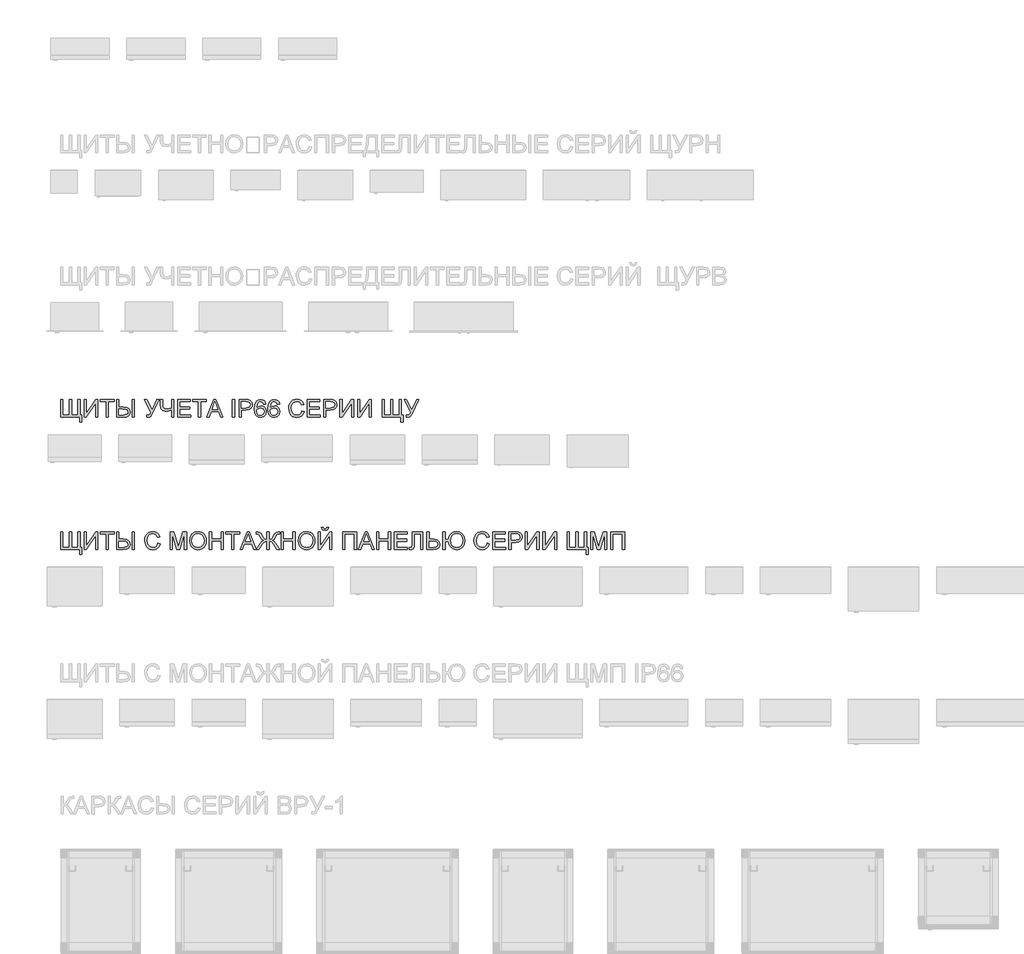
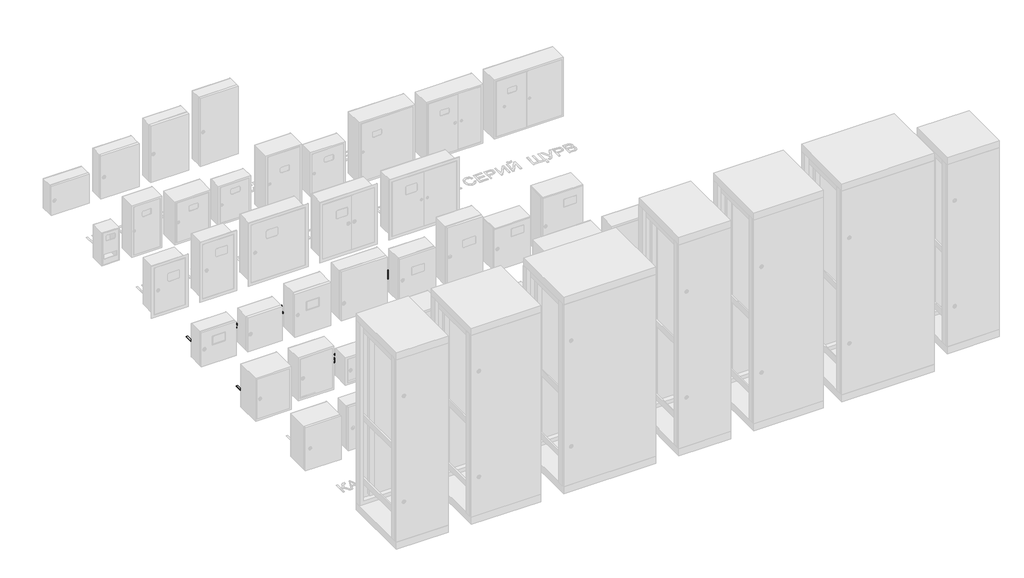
# One storey, part 9 of 25: 2 proxies.
"""IFC4 building model written with IfcOpenShell, lengths in millimetres."""

import ifcopenshell
import ifcopenshell.guid

model = None  # the IFC model being written
_history = None  # IfcOwnerHistory: only IFC2X3 demands one
_inside = {}  # id of a spatial element -> (the spatial element, [elements in it])
_under = {}  # id of a project, library or spatial element -> (it, [spatial elements below it])
_declared = {}  # id of a project -> (the project, [libraries it declares])
_typed = {}  # id of a type object -> (the type object, [elements of that type])
_made_of = {}  # id of a material, layer set ... -> (it, [elements and type objects made of it])


def new_model(schema):
    """Start an empty IFC model of exactly this schema.

    Asked for "IFC4X3", IfcOpenShell would pick the latest addendum, in which some entities
    have other attributes; the version numbers below select the first issue.
    IFC2X3 requires an IfcOwnerHistory on every rooted entity: one is made here for all.
    """
    global model, _history
    if schema == "IFC4X3":
        model = ifcopenshell.file(schema_version=(4, 3, 0, 0))
    else:
        model = ifcopenshell.file(schema=schema)
    _inside.clear()
    _under.clear()
    _declared.clear()
    _typed.clear()
    _made_of.clear()
    _history = None
    if model.schema == "IFC2X3":
        org = make("IfcOrganization", Name="unknown")
        user = make(
            "IfcPersonAndOrganization",
            ThePerson=make("IfcPerson", FamilyName="unknown"),
            TheOrganization=org,
        )
        app = make(
            "IfcApplication",
            ApplicationDeveloper=org,
            Version="unknown",
            ApplicationFullName="unknown",
            ApplicationIdentifier="unknown",
        )
        _history = make(
            "IfcOwnerHistory",
            OwningUser=user,
            OwningApplication=app,
            ChangeAction="ADDED",
            CreationDate=0,
        )
    return model


def make(cls, **values):
    """One entity of the class cls with the attributes given. An attribute that is None is left unset."""
    return model.create_entity(
        cls, **{name: value for name, value in values.items() if value is not None}
    )


def rooted(cls, **values):
    """An entity with a GlobalId (a new one), such as an element, a storey or a relation."""
    return make(cls, GlobalId=ifcopenshell.guid.new(), OwnerHistory=_history, **values)


def si_unit(unit_type, name, prefix=None):
    """IfcSIUnit, for example si_unit("LENGTHUNIT", "METRE", prefix="MILLI")."""
    return make("IfcSIUnit", UnitType=unit_type, Prefix=prefix, Name=name)


def assignment(units):
    """IfcUnitAssignment: the units of a project."""
    return None if units is None else make("IfcUnitAssignment", Units=units)


def point(xyz):
    """IfcCartesianPoint."""
    return None if xyz is None else make("IfcCartesianPoint", Coordinates=xyz)


def direction(xyz):
    """IfcDirection."""
    return None if xyz is None else make("IfcDirection", DirectionRatios=xyz)


def frame(location, z_axis=None, x_axis=None):
    """IfcAxis2Placement3D, a coordinate frame: its origin and axes. An axis left out is left unset."""
    return make(
        "IfcAxis2Placement3D",
        Location=point(location),
        Axis=direction(z_axis),
        RefDirection=direction(x_axis),
    )


def origin():
    """The frame at (0, 0, 0) with its axes left unset."""
    return frame((0.0, 0.0, 0.0))


def place(relative_to, where):
    """IfcLocalPlacement: puts the frame where relative to a parent placement (None: the world)."""
    return make(
        "IfcLocalPlacement", PlacementRelTo=relative_to, RelativePlacement=where
    )


def context(
    kind, dimensions, precision=None, world=None, true_north=None, identifier=None
):
    """IfcGeometricRepresentationContext, for example the 3D "Model" context."""
    return make(
        "IfcGeometricRepresentationContext",
        ContextIdentifier=identifier,
        ContextType=kind,
        CoordinateSpaceDimension=dimensions,
        Precision=precision,
        WorldCoordinateSystem=world,
        TrueNorth=true_north,
    )


def project(units=None, contexts=None):
    """IfcProject with its units and contexts."""
    return rooted(
        "IfcProject",
        Name="project",
        RepresentationContexts=contexts,
        UnitsInContext=assignment(units),
    )


def spatial(cls, under=None, at=None, **own):
    """A site, building, storey or space (cls), placed at a placement, below another one or the project."""
    s = rooted(cls, ObjectPlacement=at, **own)
    if under is not None:
        _under.setdefault(under.id(), (under, []))[1].append(s)
    return s


def polyline(points):
    """IfcPolyline through the points."""
    return make("IfcPolyline", Points=[point(p) for p in points])


def outline(outer, holes=None, kind="AREA"):
    """IfcArbitraryClosedProfileDef: a profile drawn as a closed curve; with holes, ...WithVoids."""
    if holes is None:
        return make("IfcArbitraryClosedProfileDef", ProfileType=kind, OuterCurve=outer)
    return make(
        "IfcArbitraryProfileDefWithVoids",
        ProfileType=kind,
        OuterCurve=outer,
        InnerCurves=holes,
    )


def extrude(swept, where, along, depth):
    """IfcExtrudedAreaSolid: the profile swept, set in the frame where, extruded along a direction by depth."""
    return make(
        "IfcExtrudedAreaSolid",
        SweptArea=swept,
        Position=where,
        ExtrudedDirection=direction(along),
        Depth=depth,
    )


def shape(context_of_items, identifier, shape_type, items):
    """IfcShapeRepresentation: the items that make up one representation, for example the "Body"."""
    return make(
        "IfcShapeRepresentation",
        ContextOfItems=context_of_items,
        RepresentationIdentifier=identifier,
        RepresentationType=shape_type,
        Items=items,
    )


def made_of(thing, what):
    """Note that an element or type object is made of a material, layer set ...; save() writes the relation."""
    if what is not None:
        _made_of.setdefault(what.id(), (what, []))[1].append(thing)
    return thing


def element(
    cls,
    number,
    at=None,
    inside=None,
    cuts=None,
    type_object=None,
    material=None,
    context=None,
    identifier="Body",
    shape_type=None,
    held_by="IfcProductDefinitionShape",
    body=None,
    shapes=None,
    **own,
):
    """One element of the class cls, such as IfcWall. Its Tag is "e" and its number.

    at: its placement. inside: the storey or other place that contains it. cuts: it is an
    opening in that element (IfcRelVoidsElement). A single representation is given by context,
    identifier, shape_type and body (its items); several are given by shapes. held_by: the class
    of the entity that holds the representations. save() writes the other relations.
    """
    e = rooted(cls, Tag="e%d" % number, ObjectPlacement=at, **own)
    if body is not None:
        shapes = [shape(context, identifier, shape_type, body)]
    if shapes is not None:
        e.Representation = make(held_by, Representations=shapes)
    if inside is not None:
        _inside.setdefault(inside.id(), (inside, []))[1].append(e)
    if cuts is not None:
        rooted(
            "IfcRelVoidsElement", RelatingBuildingElement=cuts, RelatedOpeningElement=e
        )
    if type_object is not None:
        _typed.setdefault(type_object.id(), (type_object, []))[1].append(e)
    return made_of(e, material)


def aggregate(whole, parts):
    """IfcRelAggregates: a whole, such as a stair, and the parts it consists of."""
    return rooted("IfcRelAggregates", RelatingObject=whole, RelatedObjects=parts)


def save(model, path):
    """Write the relations noted so far, then the file.

    IfcRelAggregates (storeys below a building ...), IfcRelContainedInSpatialStructure (elements
    in a storey), IfcRelDefinesByType, IfcRelAssociatesMaterial and IfcRelDeclares: one each for
    every whole, place, type object, material and project.
    """
    for whole, parts in _under.values():
        aggregate(whole, parts)
    for where, things in _inside.values():
        rooted(
            "IfcRelContainedInSpatialStructure",
            RelatedElements=things,
            RelatingStructure=where,
        )
    for kind, things in _typed.values():
        rooted("IfcRelDefinesByType", RelatedObjects=things, RelatingType=kind)
    for what, things in _made_of.values():
        rooted("IfcRelAssociatesMaterial", RelatedObjects=things, RelatingMaterial=what)
    for by, libraries in _declared.values():
        rooted("IfcRelDeclares", RelatingContext=by, RelatedDefinitions=libraries)
    model.write(path)


model = new_model("IFC4")

# Units and contexts
model_context = context("Model", 3, world=origin())
ifc_project = project(units=[si_unit("LENGTHUNIT", "METRE", prefix="MILLI")], contexts=[model_context])

# Site, building, storey
site = spatial("IfcSite", under=ifc_project)
building = spatial("IfcBuilding", under=site)
storey = spatial("IfcBuildingStorey", under=building, Name="Этаж 01", Elevation=0.0)

# Proxies
placement = place(None, origin())
element("IfcBuildingElementProxy", 1, Name="Надпись на модели 1", ObjectType="Надпись на модели 1", at=placement, inside=storey, context=model_context, shape_type="SweptSolid", body=[
    extrude(outline(polyline([(-19039.6906686, 6136.6915941), (-19027.1336298, 6136.6915941), (-19027.1336298, 6048.7923228), (-18991.0321433, 6048.7923228), (-18991.0321433, 6136.6915941), (-18978.4751046, 6136.6915941), (-18978.4751046, 6048.7923228), (-18942.3736181, 6048.7923228), (-18942.3736181, 6136.6915941), (-18929.8165793, 6136.6915941), (-18929.8165793, 6048.7923228), (-18920.3988003, 6048.7923228), (-18920.3988003, 6007.9819468), (-18932.955839, 6007.9819468), (-18932.955839, 6036.235284), (-19039.6906686, 6036.235284), (-19039.6906686, 6136.6915941)])), frame((0.0, 0.0, 40.0), z_axis=(0.0, 0.0, 1.0), x_axis=(1.0, 0.0, 0.0)), (0.0, 0.0, 1.0), 2.0),
    extrude(outline(polyline([(-18907.8417615, 6136.6915941), (-18895.2847227, 6136.6915941), (-18895.2847227, 6057.1309813), (-18842.7021229, 6136.6915941), (-18829.3602692, 6136.6915941), (-18829.3602692, 6036.235284), (-18841.917308, 6036.235284), (-18841.917308, 6115.5751676), (-18894.3772805, 6036.235284), (-18907.8417615, 6036.235284), (-18907.8417615, 6136.6915941)])), frame((0.0, 0.0, 40.0), z_axis=(0.0, 0.0, 1.0), x_axis=(1.0, 0.0, 0.0)), (0.0, 0.0, 1.0), 2.0),
    extrude(outline(polyline([(-18782.2713738, 6036.235284), (-18782.2713738, 6124.1345554), (-18815.2336006, 6124.1345554), (-18815.2336006, 6136.6915941), (-18736.7521083, 6136.6915941), (-18736.7521083, 6124.1345554), (-18769.714335, 6124.1345554), (-18769.714335, 6036.235284), (-18782.2713738, 6036.235284)])), frame((0.0, 0.0, 40.0), z_axis=(0.0, 0.0, 1.0), x_axis=(1.0, 0.0, 0.0)), (0.0, 0.0, 1.0), 2.0),
    extrude(outline(polyline([(-18722.6254397, 6136.6915941), (-18710.0684009, 6136.6915941), (-18710.0684009, 6094.3115883), (-18685.935342, 6094.3115883), (-18666.2965748, 6092.1165591), (-18654.7634743, 6085.5314713), (-18649.1532739, 6076.1627432), (-18647.2832071, 6065.6167927), (-18649.2605728, 6054.6017926), (-18655.1926699, 6045.0521891), (-18666.4958443, 6038.4395103), (-18684.5864414, 6036.235284), (-18722.6254397, 6036.235284), (-18722.6254397, 6136.6915941)]), holes=[polyline([(-18710.0684009, 6048.7923228), (-18684.7090687, 6048.7923228), (-18665.7386205, 6052.777711), (-18661.3148395, 6057.9617815), (-18659.8402458, 6065.5432163), (-18663.4087012, 6075.5250811), (-18672.6302765, 6080.6509035), (-18691.5026229, 6081.7545495), (-18710.0684009, 6081.7545495), (-18710.0684009, 6048.7923228)])]), frame((0.0, 0.0, 40.0), z_axis=(0.0, 0.0, 1.0), x_axis=(1.0, 0.0, 0.0)), (0.0, 0.0, 1.0), 2.0),
    extrude(outline(polyline([(-18634.7261683, 6136.6915941), (-18622.1691295, 6136.6915941), (-18622.1691295, 6036.235284), (-18634.7261683, 6036.235284), (-18634.7261683, 6136.6915941)])), frame((0.0, 0.0, 40.0), z_axis=(0.0, 0.0, 1.0), x_axis=(1.0, 0.0, 0.0)), (0.0, 0.0, 1.0), 2.0),
    extrude(outline(polyline([(-18566.44727, 6136.6915941), (-18552.5413306, 6136.6915941), (-18522.4976343, 6077.1928128), (-18495.4705704, 6136.6915941), (-18481.6872583, 6136.6915941), (-18519.8243585, 6058.430831), (-18530.1986307, 6039.2028654), (-18541.7991763, 6034.6656541), (-18553.1054163, 6036.235284), (-18553.1054163, 6047.2226929), (-18543.2216533, 6047.2226929), (-18535.8885389, 6050.0185961), (-18529.0949847, 6062.7473131), (-18566.44727, 6136.6915941)])), frame((0.0, 0.0, 40.0), z_axis=(0.0, 0.0, 1.0), x_axis=(1.0, 0.0, 0.0)), (0.0, 0.0, 1.0), 2.0),
    extrude(outline(polyline([(-18399.2816914, 6036.235284), (-18411.8387301, 6036.235284), (-18411.8387301, 6076.4570488), (-18442.9370215, 6069.1975108), (-18461.294333, 6074.1639177), (-18471.9383854, 6086.7700074), (-18474.623924, 6106.7705252), (-18474.623924, 6136.6915941), (-18462.0668852, 6136.6915941), (-18462.0668852, 6108.4627824), (-18460.558569, 6094.8848711), (-18456.0336205, 6086.9171602), (-18441.5390699, 6081.7545495), (-18411.8387301, 6087.984018), (-18411.8387301, 6136.6915941), (-18399.2816914, 6136.6915941), (-18399.2816914, 6036.235284)])), frame((0.0, 0.0, 40.0), z_axis=(0.0, 0.0, 1.0), x_axis=(1.0, 0.0, 0.0)), (0.0, 0.0, 1.0), 2.0),
    extrude(outline(polyline([(-18377.3068735, 6036.235284), (-18377.3068735, 6136.6915941), (-18305.1039006, 6136.6915941), (-18305.1039006, 6124.1345554), (-18364.7498348, 6124.1345554), (-18364.7498348, 6094.3115883), (-18308.2431603, 6094.3115883), (-18308.2431603, 6081.7545495), (-18364.7498348, 6081.7545495), (-18364.7498348, 6048.7923228), (-18303.5342708, 6048.7923228), (-18303.5342708, 6036.235284), (-18377.3068735, 6036.235284)])), frame((0.0, 0.0, 40.0), z_axis=(0.0, 0.0, 1.0), x_axis=(1.0, 0.0, 0.0)), (0.0, 0.0, 1.0), 2.0),
    extrude(outline(polyline([(-18259.5846351, 6036.235284), (-18259.5846351, 6124.1345554), (-18292.5468618, 6124.1345554), (-18292.5468618, 6136.6915941), (-18214.0653695, 6136.6915941), (-18214.0653695, 6124.1345554), (-18247.0275963, 6124.1345554), (-18247.0275963, 6036.235284), (-18259.5846351, 6036.235284)])), frame((0.0, 0.0, 40.0), z_axis=(0.0, 0.0, 1.0), x_axis=(1.0, 0.0, 0.0)), (0.0, 0.0, 1.0), 2.0),
    extrude(outline(polyline([(-18211.6373484, 6036.235284), (-18171.5382109, 6136.6915941), (-18160.8451076, 6136.6915941), (-18120.7459701, 6036.235284), (-18134.0142474, 6036.235284), (-18145.5166911, 6067.6278809), (-18186.8911528, 6067.6278809), (-18198.3690711, 6036.235284), (-18211.6373484, 6036.235284)]), holes=[polyline([(-18182.2803651, 6080.1849197), (-18150.1029533, 6080.1849197), (-18159.1528504, 6104.8820643), (-18166.1916592, 6124.1345554), (-18172.4456531, 6107.0403053), (-18182.2803651, 6080.1849197)])]), frame((0.0, 0.0, 40.0), z_axis=(0.0, 0.0, 1.0), x_axis=(1.0, 0.0, 0.0)), (0.0, 0.0, 1.0), 2.0),
    extrude(outline(polyline([(-18066.520164, 6036.235284), (-18066.520164, 6136.6915941), (-18053.9631252, 6136.6915941), (-18053.9631252, 6036.235284), (-18066.520164, 6036.235284)])), frame((0.0, 0.0, 40.0), z_axis=(0.0, 0.0, 1.0), x_axis=(1.0, 0.0, 0.0)), (0.0, 0.0, 1.0), 2.0),
    extrude(outline(polyline([(-18028.8490477, 6036.235284), (-18028.8490477, 6136.6915941), (-17991.6193898, 6136.6915941), (-17976.6098044, 6135.735101), (-17964.4083849, 6131.0384742), (-17956.498922, 6121.3263895), (-17953.5068151, 6107.6289165), (-17955.5271004, 6095.7892476), (-17961.5879562, 6085.9238788), (-17972.9217874, 6079.2652147), (-17990.7609985, 6077.04566), (-18016.2920089, 6077.04566), (-18016.2920089, 6036.235284), (-18028.8490477, 6036.235284)]), holes=[polyline([(-18016.2920089, 6089.6026988), (-17990.0252345, 6089.6026988), (-17971.5330328, 6094.2134864), (-17967.4311486, 6099.7623732), (-17966.0638538, 6107.1874581), (-17969.2889527, 6117.5862559), (-17977.7625013, 6123.2761641), (-17990.3195401, 6124.1345554), (-18016.2920089, 6124.1345554), (-18016.2920089, 6089.6026988)])]), frame((0.0, 0.0, 40.0), z_axis=(0.0, 0.0, 1.0), x_axis=(1.0, 0.0, 0.0)), (0.0, 0.0, 1.0), 2.0),
    extrude(outline(polyline([(-17876.5949526, 6110.0078868), (-17889.1519914, 6108.4382569), (-17893.9099319, 6118.910631), (-17906.4914961, 6124.1345554), (-17917.8222615, 6121.0933975), (-17926.393912, 6109.676793), (-17929.9623674, 6087.2973049), (-17918.8891193, 6097.3159579), (-17905.1671209, 6100.5901077), (-17893.5665753, 6098.3521589), (-17883.8299652, 6091.6383125), (-17877.2264834, 6081.3805362), (-17875.0253228, 6068.5107977), (-17879.1701266, 6051.1835557), (-17890.5744684, 6038.9208226), (-17907.0310564, 6034.6656541), (-17921.2772866, 6037.4860828), (-17932.6233805, 6045.9473687), (-17940.0453997, 6060.8833777), (-17942.5194062, 6083.1279756), (-17939.7725539, 6108.13782), (-17931.5319972, 6125.2382014), (-17920.2809396, 6133.8282459), (-17905.7066812, 6136.6915941), (-17894.6886154, 6134.9196292), (-17885.8655789, 6129.6037344), (-17879.6851614, 6121.1608426), (-17876.5949526, 6110.0078868)]), holes=[polyline([(-17929.9623674, 6068.7070014), (-17927.0560996, 6057.8299571), (-17919.3305777, 6049.9327569), (-17908.012075, 6047.2226929), (-17899.7255331, 6048.6267759), (-17893.2109561, 6052.8390247), (-17888.9895102, 6059.4609006), (-17887.5823615, 6068.0938648), (-17888.9711161, 6076.3804067), (-17893.1373797, 6082.69878), (-17899.7623213, 6086.6994967), (-17908.5271098, 6088.0330689), (-17923.7206362, 6082.69878), (-17928.4019346, 6076.5336909), (-17929.9623674, 6068.7070014)])]), frame((0.0, 0.0, 40.0), z_axis=(0.0, 0.0, 1.0), x_axis=(1.0, 0.0, 0.0)), (0.0, 0.0, 1.0), 2.0),
    extrude(outline(polyline([(-17799.6830902, 6110.0078868), (-17812.2401289, 6108.4382569), (-17816.9980694, 6118.910631), (-17829.5796336, 6124.1345554), (-17840.9103991, 6121.0933975), (-17849.4820496, 6109.676793), (-17853.0505049, 6087.2973049), (-17841.9772569, 6097.3159579), (-17828.2552585, 6100.5901077), (-17816.6547129, 6098.3521589), (-17806.9181027, 6091.6383125), (-17800.3146209, 6081.3805362), (-17798.1134603, 6068.5107977), (-17802.2582641, 6051.1835557), (-17813.662606, 6038.9208226), (-17830.1191939, 6034.6656541), (-17844.3654242, 6037.4860828), (-17855.711518, 6045.9473687), (-17863.1335373, 6060.8833777), (-17865.6075437, 6083.1279756), (-17862.8606915, 6108.13782), (-17854.6201348, 6125.2382014), (-17843.3690771, 6133.8282459), (-17828.7948187, 6136.6915941), (-17817.776753, 6134.9196292), (-17808.9537164, 6129.6037344), (-17802.7732989, 6121.1608426), (-17799.6830902, 6110.0078868)]), holes=[polyline([(-17853.0505049, 6068.7070014), (-17850.1442372, 6057.8299571), (-17842.4187153, 6049.9327569), (-17831.1002126, 6047.2226929), (-17822.8136706, 6048.6267759), (-17816.2990936, 6052.8390247), (-17812.0776477, 6059.4609006), (-17810.6704991, 6068.0938648), (-17812.0592536, 6076.3804067), (-17816.2255172, 6082.69878), (-17822.8504588, 6086.6994967), (-17831.6152473, 6088.0330689), (-17846.8087737, 6082.69878), (-17851.4900721, 6076.5336909), (-17853.0505049, 6068.7070014)])]), frame((0.0, 0.0, 40.0), z_axis=(0.0, 0.0, 1.0), x_axis=(1.0, 0.0, 0.0)), (0.0, 0.0, 1.0), 2.0),
    extrude(outline(polyline([(-17672.5430726, 6071.944363), (-17659.9860339, 6068.7070014), (-17665.7801753, 6054.0744951), (-17674.8729919, 6043.3844574), (-17686.816894, 6036.845355), (-17701.1642919, 6034.6656541), (-17715.7293532, 6036.3149918), (-17727.2961762, 6041.2630046), (-17736.1621323, 6049.3380144), (-17742.6245927, 6060.3683429), (-17747.8853052, 6087.2237285), (-17746.3984488, 6101.8715633), (-17741.9378797, 6114.5205726), (-17734.7365896, 6124.7691518), (-17725.0275706, 6132.2156965), (-17713.5128642, 6136.7498421), (-17700.8945117, 6138.261224), (-17687.1265281, 6136.305318), (-17675.743646, 6130.4376002), (-17667.1014848, 6121.0198211), (-17661.5556637, 6108.4137314), (-17674.1127025, 6105.4216246), (-17684.4133983, 6120.8604056), (-17701.3850211, 6125.7041852), (-17721.0299196, 6120.3331081), (-17732.1276931, 6105.9121339), (-17735.3282665, 6087.248254), (-17731.5390819, 6065.6167927), (-17719.7423326, 6051.7966924), (-17702.4150906, 6047.2226929), (-17691.9335195, 6048.78006), (-17683.1993878, 6053.4521614), (-17676.605103, 6061.189946), (-17672.5430726, 6071.944363)])), frame((0.0, 0.0, 40.0), z_axis=(0.0, 0.0, 1.0), x_axis=(1.0, 0.0, 0.0)), (0.0, 0.0, 1.0), 2.0),
    extrude(outline(polyline([(-17642.7201056, 6036.235284), (-17642.7201056, 6136.6915941), (-17570.5171326, 6136.6915941), (-17570.5171326, 6124.1345554), (-17630.1630668, 6124.1345554), (-17630.1630668, 6094.3115883), (-17573.6563923, 6094.3115883), (-17573.6563923, 6081.7545495), (-17630.1630668, 6081.7545495), (-17630.1630668, 6048.7923228), (-17568.9475028, 6048.7923228), (-17568.9475028, 6036.235284), (-17642.7201056, 6036.235284)])), frame((0.0, 0.0, 40.0), z_axis=(0.0, 0.0, 1.0), x_axis=(1.0, 0.0, 0.0)), (0.0, 0.0, 1.0), 2.0),
    extrude(outline(polyline([(-17550.1119446, 6036.235284), (-17550.1119446, 6136.6915941), (-17512.8822867, 6136.6915941), (-17497.8727013, 6135.735101), (-17485.6712818, 6131.0384742), (-17477.7618189, 6121.3263895), (-17474.769712, 6107.6289165), (-17476.7899973, 6095.7892476), (-17482.8508532, 6085.9238788), (-17494.1846843, 6079.2652147), (-17512.0238954, 6077.04566), (-17537.5549059, 6077.04566), (-17537.5549059, 6036.235284), (-17550.1119446, 6036.235284)]), holes=[polyline([(-17537.5549059, 6089.6026988), (-17511.2881314, 6089.6026988), (-17492.7959298, 6094.2134864), (-17488.6940455, 6099.7623732), (-17487.3267508, 6107.1874581), (-17490.5518496, 6117.5862559), (-17499.0253982, 6123.2761641), (-17511.582437, 6124.1345554), (-17537.5549059, 6124.1345554), (-17537.5549059, 6089.6026988)])]), frame((0.0, 0.0, 40.0), z_axis=(0.0, 0.0, 1.0), x_axis=(1.0, 0.0, 0.0)), (0.0, 0.0, 1.0), 2.0),
    extrude(outline(polyline([(-17457.5037837, 6136.6915941), (-17444.9467449, 6136.6915941), (-17444.9467449, 6057.1309813), (-17392.3641451, 6136.6915941), (-17379.0222914, 6136.6915941), (-17379.0222914, 6036.235284), (-17391.5793302, 6036.235284), (-17391.5793302, 6115.5751676), (-17444.0393027, 6036.235284), (-17457.5037837, 6036.235284), (-17457.5037837, 6136.6915941)])), frame((0.0, 0.0, 40.0), z_axis=(0.0, 0.0, 1.0), x_axis=(1.0, 0.0, 0.0)), (0.0, 0.0, 1.0), 2.0),
    extrude(outline(polyline([(-17357.0474736, 6136.6915941), (-17344.4904348, 6136.6915941), (-17344.4904348, 6057.1309813), (-17291.907835, 6136.6915941), (-17278.5659813, 6136.6915941), (-17278.5659813, 6036.235284), (-17291.12302, 6036.235284), (-17291.12302, 6115.5751676), (-17343.5829925, 6036.235284), (-17357.0474736, 6036.235284), (-17357.0474736, 6136.6915941)])), frame((0.0, 0.0, 40.0), z_axis=(0.0, 0.0, 1.0), x_axis=(1.0, 0.0, 0.0)), (0.0, 0.0, 1.0), 2.0),
    extrude(outline(polyline([(-17218.9200471, 6136.6915941), (-17206.3630083, 6136.6915941), (-17206.3630083, 6048.7923228), (-17170.2615219, 6048.7923228), (-17170.2615219, 6136.6915941), (-17157.7044831, 6136.6915941), (-17157.7044831, 6048.7923228), (-17121.6029967, 6048.7923228), (-17121.6029967, 6136.6915941), (-17109.0459579, 6136.6915941), (-17109.0459579, 6048.7923228), (-17099.6281788, 6048.7923228), (-17099.6281788, 6007.9819468), (-17112.1852176, 6007.9819468), (-17112.1852176, 6036.235284), (-17218.9200471, 6036.235284), (-17218.9200471, 6136.6915941)])), frame((0.0, 0.0, 40.0), z_axis=(0.0, 0.0, 1.0), x_axis=(1.0, 0.0, 0.0)), (0.0, 0.0, 1.0), 2.0),
    extrude(outline(polyline([(-17094.1344743, 6136.6915941), (-17080.2285349, 6136.6915941), (-17050.1848387, 6077.1928128), (-17023.1577747, 6136.6915941), (-17009.3744627, 6136.6915941), (-17047.5115628, 6058.430831), (-17057.8858351, 6039.2028654), (-17069.4863807, 6034.6656541), (-17080.7926207, 6036.235284), (-17080.7926207, 6047.2226929), (-17070.9088577, 6047.2226929), (-17063.5757433, 6050.0185961), (-17056.7821891, 6062.7473131), (-17094.1344743, 6136.6915941)])), frame((0.0, 0.0, 40.0), z_axis=(0.0, 0.0, 1.0), x_axis=(1.0, 0.0, 0.0)), (0.0, 0.0, 1.0), 2.0),
])
element("IfcBuildingElementProxy", 2, Name="Надпись на модели 1", ObjectType="Надпись на модели 1", at=placement, inside=storey, context=model_context, shape_type="SweptSolid", body=[
    extrude(outline(polyline([(-19039.6906686, 5386.6915941), (-19027.1336298, 5386.6915941), (-19027.1336298, 5298.7923228), (-18991.0321433, 5298.7923228), (-18991.0321433, 5386.6915941), (-18978.4751046, 5386.6915941), (-18978.4751046, 5298.7923228), (-18942.3736181, 5298.7923228), (-18942.3736181, 5386.6915941), (-18929.8165793, 5386.6915941), (-18929.8165793, 5298.7923228), (-18920.3988003, 5298.7923228), (-18920.3988003, 5257.9819468), (-18932.955839, 5257.9819468), (-18932.955839, 5286.235284), (-19039.6906686, 5286.235284), (-19039.6906686, 5386.6915941)])), frame((0.0, 0.0, 40.0), z_axis=(0.0, 0.0, 1.0), x_axis=(1.0, 0.0, 0.0)), (0.0, 0.0, 1.0), 2.0),
    extrude(outline(polyline([(-18907.8417615, 5386.6915941), (-18895.2847227, 5386.6915941), (-18895.2847227, 5307.1309813), (-18842.7021229, 5386.6915941), (-18829.3602692, 5386.6915941), (-18829.3602692, 5286.235284), (-18841.917308, 5286.235284), (-18841.917308, 5365.5751676), (-18894.3772805, 5286.235284), (-18907.8417615, 5286.235284), (-18907.8417615, 5386.6915941)])), frame((0.0, 0.0, 40.0), z_axis=(0.0, 0.0, 1.0), x_axis=(1.0, 0.0, 0.0)), (0.0, 0.0, 1.0), 2.0),
    extrude(outline(polyline([(-18782.2713738, 5286.235284), (-18782.2713738, 5374.1345554), (-18815.2336006, 5374.1345554), (-18815.2336006, 5386.6915941), (-18736.7521083, 5386.6915941), (-18736.7521083, 5374.1345554), (-18769.714335, 5374.1345554), (-18769.714335, 5286.235284), (-18782.2713738, 5286.235284)])), frame((0.0, 0.0, 40.0), z_axis=(0.0, 0.0, 1.0), x_axis=(1.0, 0.0, 0.0)), (0.0, 0.0, 1.0), 2.0),
    extrude(outline(polyline([(-18722.6254397, 5386.6915941), (-18710.0684009, 5386.6915941), (-18710.0684009, 5344.3115883), (-18685.935342, 5344.3115883), (-18666.2965748, 5342.1165591), (-18654.7634743, 5335.5314713), (-18649.1532739, 5326.1627432), (-18647.2832071, 5315.6167927), (-18649.2605728, 5304.6017926), (-18655.1926699, 5295.0521891), (-18666.4958443, 5288.4395103), (-18684.5864414, 5286.235284), (-18722.6254397, 5286.235284), (-18722.6254397, 5386.6915941)]), holes=[polyline([(-18710.0684009, 5298.7923228), (-18684.7090687, 5298.7923228), (-18665.7386205, 5302.777711), (-18661.3148395, 5307.9617815), (-18659.8402458, 5315.5432163), (-18663.4087012, 5325.5250811), (-18672.6302765, 5330.6509035), (-18691.5026229, 5331.7545495), (-18710.0684009, 5331.7545495), (-18710.0684009, 5298.7923228)])]), frame((0.0, 0.0, 40.0), z_axis=(0.0, 0.0, 1.0), x_axis=(1.0, 0.0, 0.0)), (0.0, 0.0, 1.0), 2.0),
    extrude(outline(polyline([(-18634.7261683, 5386.6915941), (-18622.1691295, 5386.6915941), (-18622.1691295, 5286.235284), (-18634.7261683, 5286.235284), (-18634.7261683, 5386.6915941)])), frame((0.0, 0.0, 40.0), z_axis=(0.0, 0.0, 1.0), x_axis=(1.0, 0.0, 0.0)), (0.0, 0.0, 1.0), 2.0),
    extrude(outline(polyline([(-18488.7505926, 5321.944363), (-18476.1935538, 5318.7070014), (-18481.9876953, 5304.0744951), (-18491.0805119, 5293.3844574), (-18503.024414, 5286.845355), (-18517.3718118, 5284.6656541), (-18531.9368731, 5286.3149918), (-18543.5036962, 5291.2630046), (-18552.3696523, 5299.3380144), (-18558.8321127, 5310.3683429), (-18564.0928252, 5337.2237285), (-18562.6059688, 5351.8715633), (-18558.1453996, 5364.5205726), (-18550.9441096, 5374.7691518), (-18541.2350906, 5382.2156965), (-18529.7203841, 5386.7498421), (-18517.1020317, 5388.261224), (-18503.334048, 5386.305318), (-18491.951166, 5380.4376002), (-18483.3090048, 5371.0198211), (-18477.7631837, 5358.4137314), (-18490.3202224, 5355.4216246), (-18500.6209183, 5370.8604056), (-18517.592541, 5375.7041852), (-18537.2374396, 5370.3331081), (-18548.3352131, 5355.9121339), (-18551.5357864, 5337.248254), (-18547.7466019, 5315.6167927), (-18535.9498526, 5301.7966924), (-18518.6226106, 5297.2226929), (-18508.1410394, 5298.78006), (-18499.4069077, 5303.4521614), (-18492.812623, 5311.189946), (-18488.7505926, 5321.944363)])), frame((0.0, 0.0, 40.0), z_axis=(0.0, 0.0, 1.0), x_axis=(1.0, 0.0, 0.0)), (0.0, 0.0, 1.0), 2.0),
    extrude(outline(polyline([(-18419.6868794, 5286.235284), (-18419.6868794, 5386.6915941), (-18398.0799435, 5386.6915941), (-18377.5276027, 5315.8865728), (-18373.3827989, 5301.0977166), (-18368.8946386, 5317.1128461), (-18348.6856543, 5386.6915941), (-18327.0787185, 5386.6915941), (-18327.0787185, 5286.235284), (-18339.6357572, 5286.235284), (-18339.6357572, 5374.1345554), (-18364.8724621, 5286.235284), (-18381.8931357, 5286.235284), (-18407.1298406, 5374.1345554), (-18407.1298406, 5286.235284), (-18419.6868794, 5286.235284)])), frame((0.0, 0.0, 40.0), z_axis=(0.0, 0.0, 1.0), x_axis=(1.0, 0.0, 0.0)), (0.0, 0.0, 1.0), 2.0),
    extrude(outline(polyline([(-18309.8127901, 5335.1390639), (-18306.465064, 5357.353005), (-18296.4218855, 5374.1590808), (-18281.0873377, 5384.7356882), (-18261.8655034, 5388.261224), (-18248.6891966, 5386.605755), (-18236.8740532, 5381.6393481), (-18227.0638667, 5373.7114911), (-18219.9024305, 5363.1716719), (-18215.5246348, 5350.528794), (-18214.0653695, 5336.2917608), (-18215.6012769, 5321.8646552), (-18220.2089989, 5309.0439677), (-18227.6340838, 5298.4857544), (-18237.62208, 5290.8460717), (-18249.3360558, 5286.2107585), (-18261.9390798, 5284.6656541), (-18275.3177217, 5286.3732397), (-18287.2003102, 5291.4959965), (-18296.9859712, 5299.5710063), (-18304.073831, 5310.1353509), (-18309.8127901, 5335.1390639)]), holes=[polyline([(-18297.2557514, 5335.0164366), (-18294.7449568, 5319.301744), (-18287.2125729, 5307.327185), (-18275.8910045, 5299.7488159), (-18262.0126562, 5297.2226929), (-18247.9319729, 5299.7733414), (-18236.5920104, 5307.4252869), (-18229.1148088, 5319.7677279), (-18226.6224083, 5336.3898627), (-18230.8898394, 5357.1138817), (-18243.3610391, 5370.8358802), (-18261.791927, 5375.7041852), (-18275.2993276, 5373.3589375), (-18286.7833772, 5366.3231943), (-18294.6376578, 5353.8060095), (-18297.2557514, 5335.0164366)])]), frame((0.0, 0.0, 40.0), z_axis=(0.0, 0.0, 1.0), x_axis=(1.0, 0.0, 0.0)), (0.0, 0.0, 1.0), 2.0),
    extrude(outline(polyline([(-18196.7994412, 5286.235284), (-18196.7994412, 5386.6915941), (-18184.2424025, 5386.6915941), (-18184.2424025, 5345.8812181), (-18130.8749877, 5345.8812181), (-18130.8749877, 5386.6915941), (-18118.3179489, 5386.6915941), (-18118.3179489, 5286.235284), (-18130.8749877, 5286.235284), (-18130.8749877, 5333.3241794), (-18184.2424025, 5333.3241794), (-18184.2424025, 5286.235284), (-18196.7994412, 5286.235284)])), frame((0.0, 0.0, 40.0), z_axis=(0.0, 0.0, 1.0), x_axis=(1.0, 0.0, 0.0)), (0.0, 0.0, 1.0), 2.0),
    extrude(outline(polyline([(-18071.2290535, 5286.235284), (-18071.2290535, 5374.1345554), (-18104.1912803, 5374.1345554), (-18104.1912803, 5386.6915941), (-18025.709788, 5386.6915941), (-18025.709788, 5374.1345554), (-18058.6720148, 5374.1345554), (-18058.6720148, 5286.235284), (-18071.2290535, 5286.235284)])), frame((0.0, 0.0, 40.0), z_axis=(0.0, 0.0, 1.0), x_axis=(1.0, 0.0, 0.0)), (0.0, 0.0, 1.0), 2.0),
    extrude(outline(polyline([(-18023.2817668, 5286.235284), (-17983.1826294, 5386.6915941), (-17972.489526, 5386.6915941), (-17932.3903886, 5286.235284), (-17945.6586659, 5286.235284), (-17957.1611096, 5317.6278809), (-17998.5355713, 5317.6278809), (-18010.0134895, 5286.235284), (-18023.2817668, 5286.235284)]), holes=[polyline([(-17993.9247836, 5330.1849197), (-17961.7473718, 5330.1849197), (-17970.7972689, 5354.8820643), (-17977.8360777, 5374.1345554), (-17984.0900716, 5357.0403053), (-17993.9247836, 5330.1849197)])]), frame((0.0, 0.0, 40.0), z_axis=(0.0, 0.0, 1.0), x_axis=(1.0, 0.0, 0.0)), (0.0, 0.0, 1.0), 2.0),
    extrude(outline(polyline([(-17859.3290243, 5386.6915941), (-17859.3290243, 5342.7419585), (-17844.3684898, 5346.1264728), (-17834.435676, 5362.8528409), (-17827.3232907, 5376.8936703), (-17819.3647769, 5383.8711655), (-17808.0462742, 5386.6915941), (-17799.6830902, 5386.5444413), (-17799.6830902, 5374.1345554), (-17802.4299424, 5374.2081318), (-17805.250371, 5374.2817082), (-17815.2322358, 5371.2160249), (-17822.8351304, 5358.389206), (-17830.8672206, 5344.0295454), (-17840.7141954, 5337.6897124), (-17830.7875129, 5331.8281259), (-17821.1673987, 5319.737071), (-17799.6830902, 5286.235284), (-17814.2757426, 5286.235284), (-17832.4981641, 5314.6602995), (-17845.0429402, 5329.1057992), (-17859.3290243, 5333.3241794), (-17859.3290243, 5286.235284), (-17871.8860631, 5286.235284), (-17871.8860631, 5333.3241794), (-17884.7741956, 5330.0500296), (-17897.809481, 5315.9601492), (-17916.9393448, 5286.235284), (-17931.5319972, 5286.235284), (-17910.0722142, 5319.737071), (-17900.3417354, 5331.8649141), (-17890.4763666, 5337.6897124), (-17899.7960438, 5343.3673578), (-17908.379957, 5358.389206), (-17916.2035808, 5371.485805), (-17925.89114, 5374.1345554), (-17931.5319972, 5373.9874026), (-17931.5319972, 5386.5444413), (-17923.6102716, 5386.6915941), (-17911.8380478, 5383.9324792), (-17904.0266867, 5377.0162977), (-17896.7794114, 5362.8283154), (-17886.8833858, 5346.0651591), (-17871.8860631, 5342.7419585), (-17871.8860631, 5386.6915941), (-17859.3290243, 5386.6915941)])), frame((0.0, 0.0, 40.0), z_axis=(0.0, 0.0, 1.0), x_axis=(1.0, 0.0, 0.0)), (0.0, 0.0, 1.0), 2.0),
    extrude(outline(polyline([(-17790.2653111, 5286.235284), (-17790.2653111, 5386.6915941), (-17777.7082723, 5386.6915941), (-17777.7082723, 5345.8812181), (-17724.3408576, 5345.8812181), (-17724.3408576, 5386.6915941), (-17711.7838188, 5386.6915941), (-17711.7838188, 5286.235284), (-17724.3408576, 5286.235284), (-17724.3408576, 5333.3241794), (-17777.7082723, 5333.3241794), (-17777.7082723, 5286.235284), (-17790.2653111, 5286.235284)])), frame((0.0, 0.0, 40.0), z_axis=(0.0, 0.0, 1.0), x_axis=(1.0, 0.0, 0.0)), (0.0, 0.0, 1.0), 2.0),
    extrude(outline(polyline([(-17694.5178905, 5335.1390639), (-17691.1701643, 5357.353005), (-17681.1269859, 5374.1590808), (-17665.792438, 5384.7356882), (-17646.5706038, 5388.261224), (-17633.394297, 5386.605755), (-17621.5791536, 5381.6393481), (-17611.768967, 5373.7114911), (-17604.6075309, 5363.1716719), (-17600.2297351, 5350.528794), (-17598.7704699, 5336.2917608), (-17600.3063772, 5321.8646552), (-17604.9140992, 5309.0439677), (-17612.3391841, 5298.4857544), (-17622.3271803, 5290.8460717), (-17634.0411562, 5286.2107585), (-17646.6441802, 5284.6656541), (-17660.0228221, 5286.3732397), (-17671.9054105, 5291.4959965), (-17681.6910716, 5299.5710063), (-17688.7789314, 5310.1353509), (-17694.5178905, 5335.1390639)]), holes=[polyline([(-17681.9608517, 5335.0164366), (-17679.4500571, 5319.301744), (-17671.9176732, 5307.327185), (-17660.5961048, 5299.7488159), (-17646.7177566, 5297.2226929), (-17632.6370732, 5299.7733414), (-17621.2971107, 5307.4252869), (-17613.8199092, 5319.7677279), (-17611.3275086, 5336.3898627), (-17615.5949398, 5357.1138817), (-17628.0661394, 5370.8358802), (-17646.4970274, 5375.7041852), (-17660.004428, 5373.3589375), (-17671.4884776, 5366.3231943), (-17679.3427582, 5353.8060095), (-17681.9608517, 5335.0164366)])]), frame((0.0, 0.0, 40.0), z_axis=(0.0, 0.0, 1.0), x_axis=(1.0, 0.0, 0.0)), (0.0, 0.0, 1.0), 2.0),
    extrude(outline(polyline([(-17581.5045416, 5386.6915941), (-17568.9475028, 5386.6915941), (-17568.9475028, 5307.1309813), (-17516.3649029, 5386.6915941), (-17503.0230493, 5386.6915941), (-17503.0230493, 5286.235284), (-17515.580088, 5286.235284), (-17515.580088, 5365.5751676), (-17568.0400605, 5286.235284), (-17581.5045416, 5286.235284), (-17581.5045416, 5386.6915941)])), frame((0.0, 0.0, 40.0), z_axis=(0.0, 0.0, 1.0), x_axis=(1.0, 0.0, 0.0)), (0.0, 0.0, 1.0), 2.0),
    extrude(outline(polyline([(-17531.2763865, 5411.8056717), (-17521.8586074, 5411.8056717), (-17527.9531858, 5397.8384186), (-17541.4789805, 5392.9701135), (-17556.1206839, 5397.8016304), (-17562.6689834, 5411.8056717), (-17553.2512043, 5411.8056717), (-17549.7195372, 5404.7300746), (-17542.6071519, 5402.3878926), (-17534.8080536, 5404.6564982), (-17531.2763865, 5411.8056717)])), frame((0.0, 0.0, 40.0), z_axis=(0.0, 0.0, 1.0), x_axis=(1.0, 0.0, 0.0)), (0.0, 0.0, 1.0), 2.0),
    extrude(outline(polyline([(-17441.8074853, 5386.6915941), (-17363.325993, 5386.6915941), (-17363.325993, 5286.235284), (-17375.8830317, 5286.235284), (-17375.8830317, 5374.1345554), (-17429.2504465, 5374.1345554), (-17429.2504465, 5286.235284), (-17441.8074853, 5286.235284), (-17441.8074853, 5386.6915941)])), frame((0.0, 0.0, 40.0), z_axis=(0.0, 0.0, 1.0), x_axis=(1.0, 0.0, 0.0)), (0.0, 0.0, 1.0), 2.0),
    extrude(outline(polyline([(-17353.0498226, 5286.235284), (-17312.9506851, 5386.6915941), (-17302.2575818, 5386.6915941), (-17262.1584443, 5286.235284), (-17275.4267216, 5286.235284), (-17286.9291653, 5317.6278809), (-17328.303627, 5317.6278809), (-17339.7815453, 5286.235284), (-17353.0498226, 5286.235284)]), holes=[polyline([(-17323.6928393, 5330.1849197), (-17291.5154275, 5330.1849197), (-17300.5653246, 5354.8820643), (-17307.6041334, 5374.1345554), (-17313.8581273, 5357.0403053), (-17323.6928393, 5330.1849197)])]), frame((0.0, 0.0, 40.0), z_axis=(0.0, 0.0, 1.0), x_axis=(1.0, 0.0, 0.0)), (0.0, 0.0, 1.0), 2.0),
    extrude(outline(polyline([(-17248.7430142, 5286.235284), (-17248.7430142, 5386.6915941), (-17236.1859754, 5386.6915941), (-17236.1859754, 5345.8812181), (-17182.8185607, 5345.8812181), (-17182.8185607, 5386.6915941), (-17170.2615219, 5386.6915941), (-17170.2615219, 5286.235284), (-17182.8185607, 5286.235284), (-17182.8185607, 5333.3241794), (-17236.1859754, 5333.3241794), (-17236.1859754, 5286.235284), (-17248.7430142, 5286.235284)])), frame((0.0, 0.0, 40.0), z_axis=(0.0, 0.0, 1.0), x_axis=(1.0, 0.0, 0.0)), (0.0, 0.0, 1.0), 2.0),
    extrude(outline(polyline([(-17148.286704, 5286.235284), (-17148.286704, 5386.6915941), (-17076.0837311, 5386.6915941), (-17076.0837311, 5374.1345554), (-17135.7296653, 5374.1345554), (-17135.7296653, 5344.3115883), (-17079.2229908, 5344.3115883), (-17079.2229908, 5331.7545495), (-17135.7296653, 5331.7545495), (-17135.7296653, 5298.7923228), (-17074.5141013, 5298.7923228), (-17074.5141013, 5286.235284), (-17148.286704, 5286.235284)])), frame((0.0, 0.0, 40.0), z_axis=(0.0, 0.0, 1.0), x_axis=(1.0, 0.0, 0.0)), (0.0, 0.0, 1.0), 2.0),
    extrude(outline(polyline([(-17047.8303939, 5386.6915941), (-16986.6148299, 5386.6915941), (-16986.6148299, 5286.235284), (-16999.1718687, 5286.235284), (-16999.1718687, 5374.1345554), (-17035.2733551, 5374.1345554), (-17035.2733551, 5322.8763307), (-17036.7326204, 5300.0063333), (-17042.8517242, 5288.7000934), (-17054.672999, 5284.6656541), (-17065.0963222, 5286.235284), (-17063.5266923, 5298.7923228), (-17057.5179531, 5297.2226929), (-17050.2461523, 5300.5949445), (-17047.8303939, 5316.475184), (-17047.8303939, 5386.6915941)])), frame((0.0, 0.0, 40.0), z_axis=(0.0, 0.0, 1.0), x_axis=(1.0, 0.0, 0.0)), (0.0, 0.0, 1.0), 2.0),
    extrude(outline(polyline([(-16964.640012, 5386.6915941), (-16952.0829733, 5386.6915941), (-16952.0829733, 5344.3115883), (-16928.5630511, 5344.3115883), (-16904.712035, 5340.375251), (-16894.0925081, 5329.6576222), (-16890.8674093, 5315.6903691), (-16892.8049211, 5304.666172), (-16898.6174566, 5295.0889773), (-16909.7029674, 5288.4487073), (-16927.4594051, 5286.235284), (-16964.640012, 5286.235284), (-16964.640012, 5386.6915941)]), holes=[polyline([(-16952.0829733, 5298.7923228), (-16927.4839305, 5298.7923228), (-16915.1108328, 5300.0339245), (-16907.9616593, 5303.7587297), (-16903.424448, 5315.73942), (-16906.7108605, 5325.4269792), (-16915.4787148, 5330.5895899), (-16934.0567555, 5331.7545495), (-16952.0829733, 5331.7545495), (-16952.0829733, 5298.7923228)])]), frame((0.0, 0.0, 40.0), z_axis=(0.0, 0.0, 1.0), x_axis=(1.0, 0.0, 0.0)), (0.0, 0.0, 1.0), 2.0),
    extrude(outline(polyline([(-16873.601481, 5386.6915941), (-16861.0444422, 5386.6915941), (-16861.0444422, 5342.7419585), (-16842.2088841, 5342.7419585), (-16837.8893363, 5361.4303638), (-16827.873749, 5375.900389), (-16813.4742345, 5385.1710152), (-16796.0029055, 5388.261224), (-16777.663988, 5384.8092646), (-16762.7708986, 5374.4533864), (-16752.893267, 5358.1868709), (-16749.6007231, 5337.0029993), (-16752.8963327, 5315.0864295), (-16762.7831613, 5298.5348054), (-16777.8019437, 5288.132942), (-16796.4934148, 5284.6656541), (-16813.5999276, 5287.6884179), (-16827.5917061, 5296.7567091), (-16837.4632063, 5311.1592892), (-16842.2088841, 5330.1849197), (-16861.0444422, 5330.1849197), (-16861.0444422, 5286.235284), (-16873.601481, 5286.235284), (-16873.601481, 5386.6915941)]), holes=[polyline([(-16829.6518453, 5335.9238788), (-16827.331123, 5319.5899182), (-16820.3689563, 5307.376236), (-16809.6359991, 5299.7610787), (-16796.0029055, 5297.2226929), (-16782.1306886, 5299.7702757), (-16771.3670745, 5307.4130242), (-16764.4600901, 5319.8382386), (-16762.1577619, 5336.7332192), (-16764.4233019, 5352.9322897), (-16771.2199217, 5365.280862), (-16781.8793025, 5373.0983544), (-16795.7331253, 5375.7041852), (-16809.7984803, 5373.0646319), (-16820.5528973, 5365.145972), (-16827.3771083, 5352.561342), (-16829.6518453, 5335.9238788)])]), frame((0.0, 0.0, 40.0), z_axis=(0.0, 0.0, 1.0), x_axis=(1.0, 0.0, 0.0)), (0.0, 0.0, 1.0), 2.0),
    extrude(outline(polyline([(-16622.4607056, 5321.944363), (-16609.9036668, 5318.7070014), (-16615.6978083, 5304.0744951), (-16624.7906249, 5293.3844574), (-16636.734527, 5286.845355), (-16651.0819248, 5284.6656541), (-16665.6469861, 5286.3149918), (-16677.2138092, 5291.2630046), (-16686.0797653, 5299.3380144), (-16692.5422257, 5310.3683429), (-16697.8029382, 5337.2237285), (-16696.3160818, 5351.8715633), (-16691.8555126, 5364.5205726), (-16684.6542226, 5374.7691518), (-16674.9452036, 5382.2156965), (-16663.4304971, 5386.7498421), (-16650.8121447, 5388.261224), (-16637.044161, 5386.305318), (-16625.661279, 5380.4376002), (-16617.0191178, 5371.0198211), (-16611.4732967, 5358.4137314), (-16624.0303354, 5355.4216246), (-16634.3310313, 5370.8604056), (-16651.302654, 5375.7041852), (-16670.9475526, 5370.3331081), (-16682.0453261, 5355.9121339), (-16685.2458994, 5337.248254), (-16681.4567149, 5315.6167927), (-16669.6599656, 5301.7966924), (-16652.3327236, 5297.2226929), (-16641.8511524, 5298.78006), (-16633.1170207, 5303.4521614), (-16626.522736, 5311.189946), (-16622.4607056, 5321.944363)])), frame((0.0, 0.0, 40.0), z_axis=(0.0, 0.0, 1.0), x_axis=(1.0, 0.0, 0.0)), (0.0, 0.0, 1.0), 2.0),
    extrude(outline(polyline([(-16592.6377385, 5286.235284), (-16592.6377385, 5386.6915941), (-16520.4347656, 5386.6915941), (-16520.4347656, 5374.1345554), (-16580.0806998, 5374.1345554), (-16580.0806998, 5344.3115883), (-16523.5740253, 5344.3115883), (-16523.5740253, 5331.7545495), (-16580.0806998, 5331.7545495), (-16580.0806998, 5298.7923228), (-16518.8651358, 5298.7923228), (-16518.8651358, 5286.235284), (-16592.6377385, 5286.235284)])), frame((0.0, 0.0, 40.0), z_axis=(0.0, 0.0, 1.0), x_axis=(1.0, 0.0, 0.0)), (0.0, 0.0, 1.0), 2.0),
    extrude(outline(polyline([(-16500.0295776, 5286.235284), (-16500.0295776, 5386.6915941), (-16462.7999197, 5386.6915941), (-16447.7903343, 5385.735101), (-16435.5889148, 5381.0384742), (-16427.6794519, 5371.3263895), (-16424.687345, 5357.6289165), (-16426.7076303, 5345.7892476), (-16432.7684862, 5335.9238788), (-16444.1023173, 5329.2652147), (-16461.9415284, 5327.04566), (-16487.4725388, 5327.04566), (-16487.4725388, 5286.235284), (-16500.0295776, 5286.235284)]), holes=[polyline([(-16487.4725388, 5339.6026988), (-16461.2057644, 5339.6026988), (-16442.7135628, 5344.2134864), (-16438.6116785, 5349.7623732), (-16437.2443838, 5357.1874581), (-16440.4694826, 5367.5862559), (-16448.9430312, 5373.2761641), (-16461.50007, 5374.1345554), (-16487.4725388, 5374.1345554), (-16487.4725388, 5339.6026988)])]), frame((0.0, 0.0, 40.0), z_axis=(0.0, 0.0, 1.0), x_axis=(1.0, 0.0, 0.0)), (0.0, 0.0, 1.0), 2.0),
    extrude(outline(polyline([(-16407.4214167, 5386.6915941), (-16394.8643779, 5386.6915941), (-16394.8643779, 5307.1309813), (-16342.2817781, 5386.6915941), (-16328.9399244, 5386.6915941), (-16328.9399244, 5286.235284), (-16341.4969631, 5286.235284), (-16341.4969631, 5365.5751676), (-16393.9569357, 5286.235284), (-16407.4214167, 5286.235284), (-16407.4214167, 5386.6915941)])), frame((0.0, 0.0, 40.0), z_axis=(0.0, 0.0, 1.0), x_axis=(1.0, 0.0, 0.0)), (0.0, 0.0, 1.0), 2.0),
    extrude(outline(polyline([(-16306.9651065, 5386.6915941), (-16294.4080678, 5386.6915941), (-16294.4080678, 5307.1309813), (-16241.8254679, 5386.6915941), (-16228.4836142, 5386.6915941), (-16228.4836142, 5286.235284), (-16241.040653, 5286.235284), (-16241.040653, 5365.5751676), (-16293.5006255, 5286.235284), (-16306.9651065, 5286.235284), (-16306.9651065, 5386.6915941)])), frame((0.0, 0.0, 40.0), z_axis=(0.0, 0.0, 1.0), x_axis=(1.0, 0.0, 0.0)), (0.0, 0.0, 1.0), 2.0),
    extrude(outline(polyline([(-16168.8376801, 5386.6915941), (-16156.2806413, 5386.6915941), (-16156.2806413, 5298.7923228), (-16120.1791549, 5298.7923228), (-16120.1791549, 5386.6915941), (-16107.6221161, 5386.6915941), (-16107.6221161, 5298.7923228), (-16071.5206296, 5298.7923228), (-16071.5206296, 5386.6915941), (-16058.9635909, 5386.6915941), (-16058.9635909, 5298.7923228), (-16049.5458118, 5298.7923228), (-16049.5458118, 5257.9819468), (-16062.1028505, 5257.9819468), (-16062.1028505, 5286.235284), (-16168.8376801, 5286.235284), (-16168.8376801, 5386.6915941)])), frame((0.0, 0.0, 40.0), z_axis=(0.0, 0.0, 1.0), x_axis=(1.0, 0.0, 0.0)), (0.0, 0.0, 1.0), 2.0),
    extrude(outline(polyline([(-16036.988773, 5286.235284), (-16036.988773, 5386.6915941), (-16015.3818372, 5386.6915941), (-15994.8294964, 5315.8865728), (-15990.6846925, 5301.0977166), (-15986.1965322, 5317.1128461), (-15965.9875479, 5386.6915941), (-15944.3806121, 5386.6915941), (-15944.3806121, 5286.235284), (-15956.9376509, 5286.235284), (-15956.9376509, 5374.1345554), (-15982.1743557, 5286.235284), (-15999.1950294, 5286.235284), (-16024.4317342, 5374.1345554), (-16024.4317342, 5286.235284), (-16036.988773, 5286.235284)])), frame((0.0, 0.0, 40.0), z_axis=(0.0, 0.0, 1.0), x_axis=(1.0, 0.0, 0.0)), (0.0, 0.0, 1.0), 2.0),
    extrude(outline(polyline([(-15922.4057942, 5386.6915941), (-15843.9243019, 5386.6915941), (-15843.9243019, 5286.235284), (-15856.4813407, 5286.235284), (-15856.4813407, 5374.1345554), (-15909.8487555, 5374.1345554), (-15909.8487555, 5286.235284), (-15922.4057942, 5286.235284), (-15922.4057942, 5386.6915941)])), frame((0.0, 0.0, 40.0), z_axis=(0.0, 0.0, 1.0), x_axis=(1.0, 0.0, 0.0)), (0.0, 0.0, 1.0), 2.0),
])

save(model, "model.ifc")
